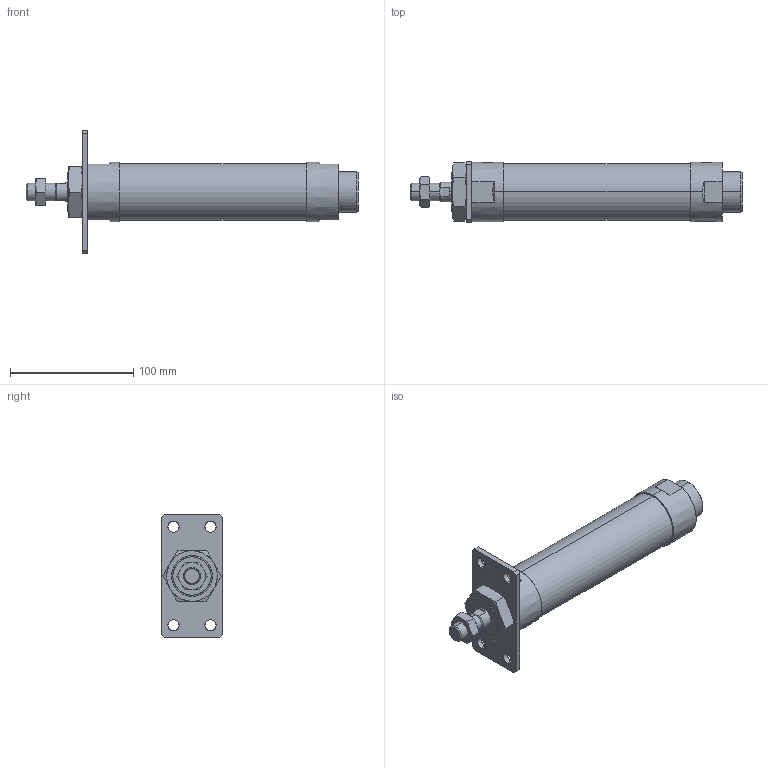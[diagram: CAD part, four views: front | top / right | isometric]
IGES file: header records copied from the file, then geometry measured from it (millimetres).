
Start section: SolidWorks IGES file using analytic representation for surfaces
Global section: file name: C:\Users\Toshiba\Desktop\J#2-40-100-A.IGS; native system: SolidWorks 2014; preprocessor: SolidWorks 2014; author: Toshiba; date: 160308.155714; units: millimetre
Bounding box: 269 x 50 x 100 mm (x, y, z)
Surface area: 54942 mm2 (no closed solid volume)
Topology: 0 solids, 0 shells, 114 faces, 2318 edges, 2314 vertices
Faces by surface type: bspline 67, revolution 47
